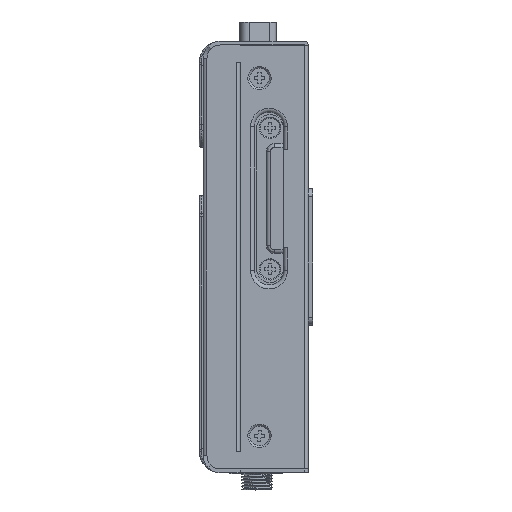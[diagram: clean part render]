
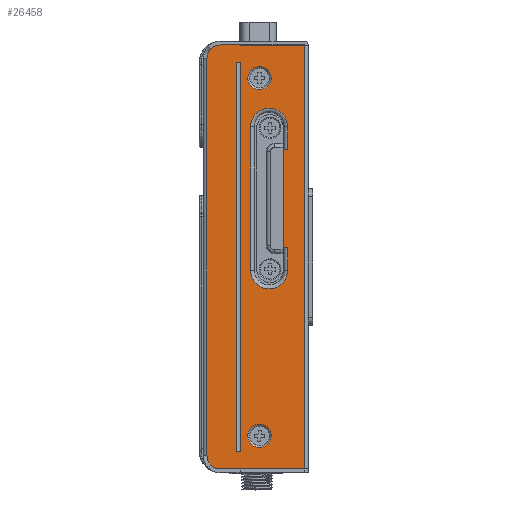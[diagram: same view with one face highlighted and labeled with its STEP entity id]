
A CAD part, left-side view. The second image highlights one B-rep face of the part: STEP entity #26458.
In plain terms, the highlighted planar face has unit normal (-1, 0, 0).
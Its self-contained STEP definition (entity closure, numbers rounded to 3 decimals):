
#1183=DIRECTION('',(0.,0.,1.));
#1184=VECTOR('',#1183,102.);
#1185=CARTESIAN_POINT('',(-38.5,21.,-51.));
#1186=LINE('',#1185,#1184);
#1296=DIRECTION('',(0.,0.,1.));
#1297=VECTOR('',#1296,100.);
#1298=CARTESIAN_POINT('',(-38.5,12.5,-50.));
#1299=LINE('',#1298,#1297);
#1488=CARTESIAN_POINT('',(-38.5,17.5,-51.));
#1489=DIRECTION('',(-1.,0.,0.));
#1490=DIRECTION('',(0.,1.,0.));
#1491=AXIS2_PLACEMENT_3D('',#1488,#1489,#1490);
#1493=CARTESIAN_POINT('',(-38.5,17.5,51.));
#1494=DIRECTION('',(-1.,0.,0.));
#1495=DIRECTION('',(0.,0.,1.));
#1496=AXIS2_PLACEMENT_3D('',#1493,#1494,#1495);
#1498=DIRECTION('',(0.,1.,0.));
#1499=VECTOR('',#1498,5.);
#1500=CARTESIAN_POINT('',(-38.5,12.5,54.5));
#1501=LINE('',#1500,#1499);
#1502=DIRECTION('',(0.,0.,1.));
#1503=VECTOR('',#1502,0.1);
#1504=CARTESIAN_POINT('',(-38.5,12.5,54.4));
#1505=LINE('',#1504,#1503);
#1506=CARTESIAN_POINT('',(-38.5,7.5,-46.));
#1507=DIRECTION('',(-1.,0.,0.));
#1508=DIRECTION('',(0.,-1.,0.));
#1509=AXIS2_PLACEMENT_3D('',#1506,#1507,#1508);
#1511=CARTESIAN_POINT('',(-38.5,7.5,-46.));
#1512=DIRECTION('',(-1.,0.,0.));
#1513=DIRECTION('',(0.,1.,0.));
#1514=AXIS2_PLACEMENT_3D('',#1511,#1512,#1513);
#1516=CARTESIAN_POINT('',(-38.5,7.5,46.));
#1517=DIRECTION('',(-1.,0.,0.));
#1518=DIRECTION('',(0.,-1.,0.));
#1519=AXIS2_PLACEMENT_3D('',#1516,#1517,#1518);
#1521=CARTESIAN_POINT('',(-38.5,7.5,46.));
#1522=DIRECTION('',(-1.,0.,0.));
#1523=DIRECTION('',(0.,1.,0.));
#1524=AXIS2_PLACEMENT_3D('',#1521,#1522,#1523);
#1526=DIRECTION('',(0.,0.,-1.));
#1527=VECTOR('',#1526,23.2);
#1528=CARTESIAN_POINT('',(-38.5,1.3,26.6));
#1529=LINE('',#1528,#1527);
#1530=DIRECTION('',(0.,0.,-1.));
#1531=VECTOR('',#1530,1.);
#1532=CARTESIAN_POINT('',(-38.5,1.3,27.6));
#1533=LINE('',#1532,#1531);
#1534=DIRECTION('',(0.,1.,0.));
#1535=VECTOR('',#1534,1.);
#1536=CARTESIAN_POINT('',(-38.5,0.3,27.6));
#1537=LINE('',#1536,#1535);
#1538=CARTESIAN_POINT('',(-38.5,5.05,33.45));
#1539=DIRECTION('',(-1.,0.,0.));
#1540=DIRECTION('',(0.,-1.,0.));
#1541=AXIS2_PLACEMENT_3D('',#1538,#1539,#1540);
#1543=CARTESIAN_POINT('',(-38.5,5.05,-3.45));
#1544=DIRECTION('',(-1.,0.,0.));
#1545=DIRECTION('',(0.,1.,0.));
#1546=AXIS2_PLACEMENT_3D('',#1543,#1544,#1545);
#1548=DIRECTION('',(0.,-1.,0.));
#1549=VECTOR('',#1548,1.);
#1550=CARTESIAN_POINT('',(-38.5,1.3,2.4));
#1551=LINE('',#1550,#1549);
#1552=DIRECTION('',(0.,0.,-1.));
#1553=VECTOR('',#1552,1.);
#1554=CARTESIAN_POINT('',(-38.5,1.3,3.4));
#1555=LINE('',#1554,#1553);
#1556=DIRECTION('',(0.,-1.,0.));
#1557=VECTOR('',#1556,1.);
#1558=CARTESIAN_POINT('',(-38.5,13.5,50.));
#1559=LINE('',#1558,#1557);
#1560=DIRECTION('',(0.,1.,0.));
#1561=VECTOR('',#1560,1.);
#1562=CARTESIAN_POINT('',(-38.5,12.5,-50.));
#1563=LINE('',#1562,#1561);
#1564=DIRECTION('',(0.,-1.,0.));
#1565=VECTOR('',#1564,21.5);
#1566=CARTESIAN_POINT('',(-38.5,17.5,-54.5));
#1567=LINE('',#1566,#1565);
#1589=DIRECTION('',(0.,0.,-1.));
#1590=VECTOR('',#1589,108.9);
#1591=CARTESIAN_POINT('',(-38.5,-4.,54.4));
#1592=LINE('',#1591,#1590);
#16251=DIRECTION('',(0.,-1.,0.));
#16252=VECTOR('',#16251,16.5);
#16253=CARTESIAN_POINT('',(-38.5,12.5,54.4));
#16254=LINE('',#16253,#16252);
#16450=DIRECTION('',(0.,0.,1.));
#16451=VECTOR('',#16450,5.85);
#16452=CARTESIAN_POINT('',(-38.5,0.3,
-3.45));
#16453=LINE('',#16452,#16451);
#16820=DIRECTION('',(0.,0.,1.));
#16821=VECTOR('',#16820,5.85);
#16822=CARTESIAN_POINT('',(-38.5,0.3,27.6));
#16823=LINE('',#16822,#16821);
#16855=DIRECTION('',(0.,0.,-1.));
#16856=VECTOR('',#16855,36.9);
#16857=CARTESIAN_POINT('',(-38.5,9.8,
33.45));
#16858=LINE('',#16857,#16856);
#17691=DIRECTION('',(0.,0.,-1.));
#17692=VECTOR('',#17691,100.);
#17693=CARTESIAN_POINT('',(-38.5,13.5,50.));
#17694=LINE('',#17693,#17692);
#20934=CARTESIAN_POINT('',(-38.5,-4.,54.4));
#20935=VERTEX_POINT('',#20934);
#20954=CARTESIAN_POINT('',(-38.5,4.5,
-46.));
#20956=VERTEX_POINT('',#20954);
#20970=CARTESIAN_POINT('',(-38.5,-4.,-54.5));
#20971=VERTEX_POINT('',#20970);
#20973=CARTESIAN_POINT('',(-38.5,10.5,
-46.));
#20975=VERTEX_POINT('',#20973);
#20996=CARTESIAN_POINT('',(-38.5,4.5,
46.));
#20998=VERTEX_POINT('',#20996);
#21041=CARTESIAN_POINT('',(-38.5,10.5,
46.));
#21043=VERTEX_POINT('',#21041);
#21084=CARTESIAN_POINT('',(-38.5,1.3,27.6));
#21085=VERTEX_POINT('',#21084);
#21110=CARTESIAN_POINT('',(-38.5,1.3,26.6));
#21111=CARTESIAN_POINT('',(-38.5,1.3,3.4));
#21112=VERTEX_POINT('',#21110);
#21113=VERTEX_POINT('',#21111);
#21154=CARTESIAN_POINT('',(-38.5,1.3,2.4));
#21155=VERTEX_POINT('',#21154);
#21160=CARTESIAN_POINT('',(-38.5,0.3,27.6));
#21161=VERTEX_POINT('',#21160);
#21192=CARTESIAN_POINT('',(-38.5,0.3,2.4));
#21193=VERTEX_POINT('',#21192);
#21228=CARTESIAN_POINT('',(-38.5,0.3,
-3.45));
#21229=VERTEX_POINT('',#21228);
#21230=CARTESIAN_POINT('',(-38.5,0.3,
33.45));
#21231=VERTEX_POINT('',#21230);
#21322=CARTESIAN_POINT('',(-38.5,9.8,33.45));
#21324=VERTEX_POINT('',#21322);
#21358=CARTESIAN_POINT('',(-38.5,9.8,
-3.45));
#21359=VERTEX_POINT('',#21358);
#21812=CARTESIAN_POINT('',(-38.5,21.,51.));
#21813=VERTEX_POINT('',#21812);
#21832=CARTESIAN_POINT('',(-38.5,21.,-51.));
#21833=VERTEX_POINT('',#21832);
#21871=CARTESIAN_POINT('',(-38.5,17.5,-54.5));
#21872=VERTEX_POINT('',#21871);
#21873=CARTESIAN_POINT('',(-38.5,17.5,54.5));
#21874=VERTEX_POINT('',#21873);
#21899=CARTESIAN_POINT('',(-38.5,13.5,50.));
#21901=VERTEX_POINT('',#21899);
#21903=CARTESIAN_POINT('',(-38.5,13.5,-50.));
#21904=VERTEX_POINT('',#21903);
#21905=CARTESIAN_POINT('',(-38.5,12.5,54.5));
#21906=VERTEX_POINT('',#21905);
#24273=CARTESIAN_POINT('',(-38.5,12.5,54.4));
#24275=VERTEX_POINT('',#24273);
#24277=CARTESIAN_POINT('',(-38.5,12.5,50.));
#24279=VERTEX_POINT('',#24277);
#24281=CARTESIAN_POINT('',(-38.5,12.5,-50.));
#24283=VERTEX_POINT('',#24281);
#26397=CARTESIAN_POINT('',(-38.5,-5.,28.364));
#26398=DIRECTION('',(1.,0.,0.));
#26399=DIRECTION('',(0.,0.,-1.));
#26400=AXIS2_PLACEMENT_3D('',#26397,#26398,#26399);
#26401=PLANE('',#26400);
#26403=ORIENTED_EDGE('',*,*,#26402,.F.);
#26405=ORIENTED_EDGE('',*,*,#26404,.F.);
#26406=ORIENTED_EDGE('',*,*,#26022,.T.);
#26407=ORIENTED_EDGE('',*,*,#26051,.F.);
#26408=ORIENTED_EDGE('',*,*,#26069,.F.);
#26410=ORIENTED_EDGE('',*,*,#26409,.F.);
#26412=ORIENTED_EDGE('',*,*,#26411,.T.);
#26414=ORIENTED_EDGE('',*,*,#26413,.T.);
#26415=EDGE_LOOP('',(#26403,#26405,#26406,#26407,#26408,#26410,#26412,#26414));
#26416=FACE_OUTER_BOUND('',#26415,.F.);
#26418=ORIENTED_EDGE('',*,*,#26417,.T.);
#26420=ORIENTED_EDGE('',*,*,#26419,.T.);
#26421=EDGE_LOOP('',(#26418,#26420));
#26422=FACE_BOUND('',#26421,.F.);
#26424=ORIENTED_EDGE('',*,*,#26423,.T.);
#26426=ORIENTED_EDGE('',*,*,#26425,.T.);
#26427=EDGE_LOOP('',(#26424,#26426));
#26428=FACE_BOUND('',#26427,.F.);
#26430=ORIENTED_EDGE('',*,*,#26429,.F.);
#26432=ORIENTED_EDGE('',*,*,#26431,.F.);
#26434=ORIENTED_EDGE('',*,*,#26433,.F.);
#26436=ORIENTED_EDGE('',*,*,#26435,.T.);
#26438=ORIENTED_EDGE('',*,*,#26437,.T.);
#26440=ORIENTED_EDGE('',*,*,#26439,.T.);
#26442=ORIENTED_EDGE('',*,*,#26441,.T.);
#26444=ORIENTED_EDGE('',*,*,#26443,.T.);
#26446=ORIENTED_EDGE('',*,*,#26445,.F.);
#26448=ORIENTED_EDGE('',*,*,#26447,.F.);
#26449=EDGE_LOOP('',(#26430,#26432,#26434,#26436,#26438,#26440,#26442,#26444,
#26446,#26448));
#26450=FACE_BOUND('',#26449,.F.);
#26451=ORIENTED_EDGE('',*,*,#26146,.T.);
#26452=ORIENTED_EDGE('',*,*,#26163,.F.);
#26454=ORIENTED_EDGE('',*,*,#26453,.T.);
#26455=ORIENTED_EDGE('',*,*,#26390,.F.);
#26456=EDGE_LOOP('',(#26451,#26452,#26454,#26455));
#26457=FACE_BOUND('',#26456,.F.);
#26458=ADVANCED_FACE('',(#26416,#26422,#26428,#26450,#26457),#26401,.F.);
#1492=CIRCLE('',#1491,3.5);
#1497=CIRCLE('',#1496,3.5);
#1510=CIRCLE('',#1509,3.);
#1515=CIRCLE('',#1514,3.);
#1520=CIRCLE('',#1519,3.);
#1525=CIRCLE('',#1524,3.);
#1542=CIRCLE('',#1541,4.75);
#1547=CIRCLE('',#1546,4.75);
#26022=EDGE_CURVE('',#21833,#21813,#1186,.T.);
#26051=EDGE_CURVE('',#21874,#21813,#1497,.T.);
#26069=EDGE_CURVE('',#21906,#21874,#1501,.T.);
#26146=EDGE_CURVE('',#24283,#24279,#1299,.T.);
#26163=EDGE_CURVE('',#21901,#24279,#1559,.T.);
#26390=EDGE_CURVE('',#24283,#21904,#1563,.T.);
#26402=EDGE_CURVE('',#21872,#20971,#1567,.T.);
#26404=EDGE_CURVE('',#21833,#21872,#1492,.T.);
#26409=EDGE_CURVE('',#24275,#21906,#1505,.T.);
#26411=EDGE_CURVE('',#24275,#20935,#16254,.T.);
#26413=EDGE_CURVE('',#20935,#20971,#1592,.T.);
#26417=EDGE_CURVE('',#20956,#20975,#1510,.T.);
#26419=EDGE_CURVE('',#20975,#20956,#1515,.T.);
#26423=EDGE_CURVE('',#20998,#21043,#1520,.T.);
#26425=EDGE_CURVE('',#21043,#20998,#1525,.T.);
#26429=EDGE_CURVE('',#21112,#21113,#1529,.T.);
#26431=EDGE_CURVE('',#21085,#21112,#1533,.T.);
#26433=EDGE_CURVE('',#21161,#21085,#1537,.T.);
#26435=EDGE_CURVE('',#21161,#21231,#16823,.T.);
#26437=EDGE_CURVE('',#21231,#21324,#1542,.T.);
#26439=EDGE_CURVE('',#21324,#21359,#16858,.T.);
#26441=EDGE_CURVE('',#21359,#21229,#1547,.T.);
#26443=EDGE_CURVE('',#21229,#21193,#16453,.T.);
#26445=EDGE_CURVE('',#21155,#21193,#1551,.T.);
#26447=EDGE_CURVE('',#21113,#21155,#1555,.T.);
#26453=EDGE_CURVE('',#21901,#21904,#17694,.T.);
